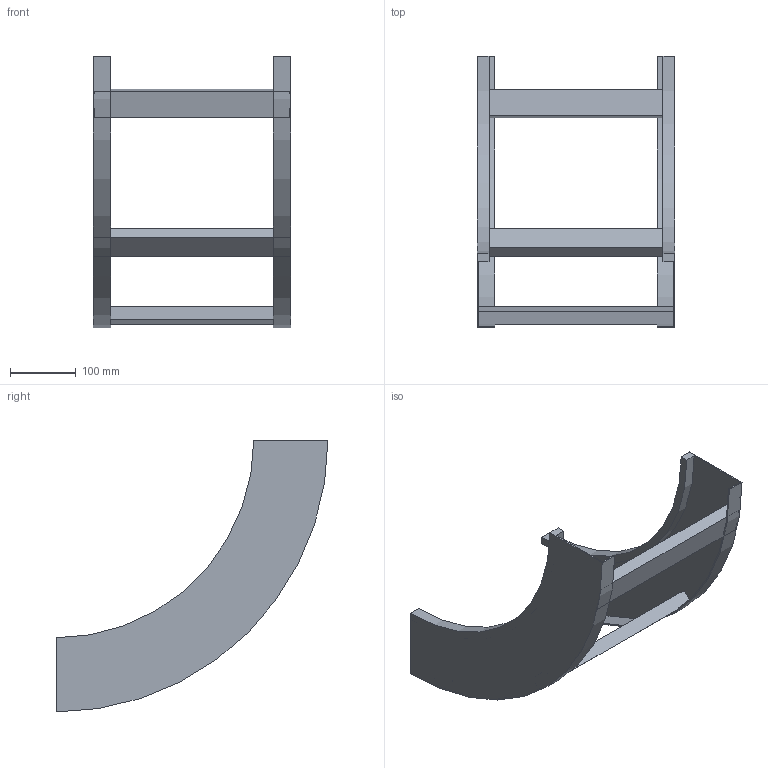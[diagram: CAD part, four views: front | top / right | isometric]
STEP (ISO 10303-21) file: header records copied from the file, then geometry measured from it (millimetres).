
FILE_DESCRIPTION (( 'STEP AP214' ), '1' );
FILE_NAME ('B2X30B3J300XX.step', '2025-03-20T10:22:42', ( '' ), ( '' ), 'SwSTEP 2.0', 'SolidWorks 2023', '' );
FILE_SCHEMA (( 'AUTOMOTIVE_DESIGN' ));
Length unit declared in the file: millimetre
Products named in the file (3): B2X30B3J300XX; B2_LONGH.SALITA_90°_H112.5_R300; TRAVERSINO_300
Assembly tree (5 placements, depth 2):
  B2X30B3J300XX
    B2_LONGH.SALITA_90°_H112.5_R300  x2
    TRAVERSINO_300  x3
Bounding box: 300 x 412.5 x 412.5 mm (x, y, z)
Volume: 1220311.4 mm3; surface area: 465871.8 mm2
Topology: 5 solids, 5 shells, 38 faces, 84 edges, 56 vertices
Faces by surface type: plane 30, cylinder 8
Entity records: 560 total; most frequent: DIRECTION 92, CARTESIAN_POINT 84, ORIENTED_EDGE 72, EDGE_CURVE 36, AXIS2_PLACEMENT_3D 32, VECTOR 28, LINE 28, VERTEX_POINT 24
